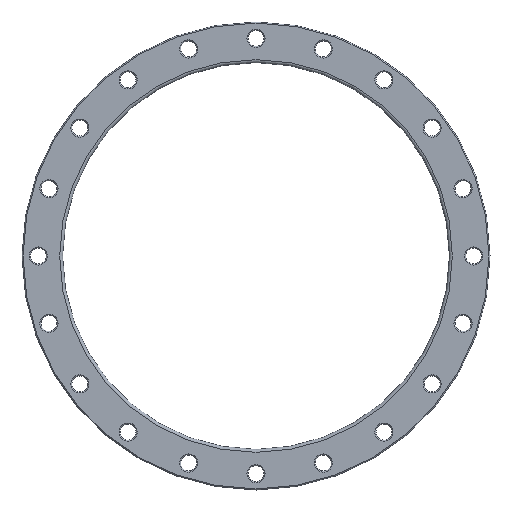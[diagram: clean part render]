
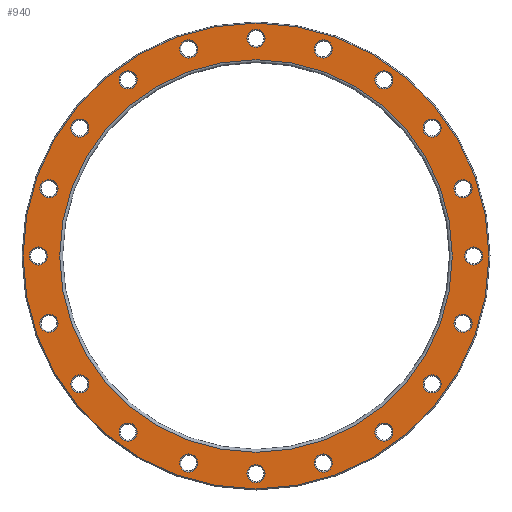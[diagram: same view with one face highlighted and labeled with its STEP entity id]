
A CAD part, front view. The second image highlights one B-rep face of the part: STEP entity #940.
In plain terms, the highlighted planar face has unit normal (0, -1, 0).
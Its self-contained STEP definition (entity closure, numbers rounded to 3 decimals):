
#23=PLANE('',#1104);
#206=ORIENTED_EDGE('',*,*,#325,.T.);
#207=ORIENTED_EDGE('',*,*,#326,.T.);
#208=ORIENTED_EDGE('',*,*,#244,.T.);
#209=ORIENTED_EDGE('',*,*,#248,.T.);
#210=ORIENTED_EDGE('',*,*,#252,.T.);
#211=ORIENTED_EDGE('',*,*,#256,.T.);
#212=ORIENTED_EDGE('',*,*,#260,.T.);
#213=ORIENTED_EDGE('',*,*,#264,.T.);
#214=ORIENTED_EDGE('',*,*,#268,.T.);
#215=ORIENTED_EDGE('',*,*,#272,.T.);
#216=ORIENTED_EDGE('',*,*,#276,.T.);
#217=ORIENTED_EDGE('',*,*,#280,.T.);
#218=ORIENTED_EDGE('',*,*,#284,.T.);
#219=ORIENTED_EDGE('',*,*,#288,.T.);
#220=ORIENTED_EDGE('',*,*,#292,.T.);
#221=ORIENTED_EDGE('',*,*,#296,.T.);
#222=ORIENTED_EDGE('',*,*,#300,.T.);
#223=ORIENTED_EDGE('',*,*,#304,.T.);
#224=ORIENTED_EDGE('',*,*,#308,.T.);
#225=ORIENTED_EDGE('',*,*,#312,.T.);
#226=ORIENTED_EDGE('',*,*,#316,.T.);
#227=ORIENTED_EDGE('',*,*,#327,.T.);
#244=EDGE_CURVE('',#332,#332,#420,.T.);
#248=EDGE_CURVE('',#336,#336,#424,.T.);
#252=EDGE_CURVE('',#340,#340,#428,.T.);
#256=EDGE_CURVE('',#344,#344,#432,.T.);
#260=EDGE_CURVE('',#348,#348,#436,.T.);
#264=EDGE_CURVE('',#352,#352,#440,.T.);
#268=EDGE_CURVE('',#356,#356,#444,.T.);
#272=EDGE_CURVE('',#360,#360,#448,.T.);
#276=EDGE_CURVE('',#364,#364,#452,.T.);
#280=EDGE_CURVE('',#368,#368,#456,.T.);
#284=EDGE_CURVE('',#372,#372,#460,.T.);
#288=EDGE_CURVE('',#376,#376,#464,.T.);
#292=EDGE_CURVE('',#380,#380,#468,.T.);
#296=EDGE_CURVE('',#384,#384,#472,.T.);
#300=EDGE_CURVE('',#388,#388,#476,.T.);
#304=EDGE_CURVE('',#392,#392,#480,.T.);
#308=EDGE_CURVE('',#396,#396,#484,.T.);
#312=EDGE_CURVE('',#400,#400,#488,.T.);
#316=EDGE_CURVE('',#404,#404,#492,.T.);
#325=EDGE_CURVE('',#413,#413,#501,.F.);
#326=EDGE_CURVE('',#414,#414,#502,.T.);
#327=EDGE_CURVE('',#415,#415,#503,.T.);
#332=VERTEX_POINT('',#1439);
#336=VERTEX_POINT('',#1450);
#340=VERTEX_POINT('',#1461);
#344=VERTEX_POINT('',#1472);
#348=VERTEX_POINT('',#1483);
#352=VERTEX_POINT('',#1494);
#356=VERTEX_POINT('',#1505);
#360=VERTEX_POINT('',#1516);
#364=VERTEX_POINT('',#1527);
#368=VERTEX_POINT('',#1538);
#372=VERTEX_POINT('',#1549);
#376=VERTEX_POINT('',#1560);
#380=VERTEX_POINT('',#1571);
#384=VERTEX_POINT('',#1582);
#388=VERTEX_POINT('',#1593);
#392=VERTEX_POINT('',#1604);
#396=VERTEX_POINT('',#1615);
#400=VERTEX_POINT('',#1626);
#404=VERTEX_POINT('',#1637);
#413=VERTEX_POINT('',#1660);
#414=VERTEX_POINT('',#1662);
#415=VERTEX_POINT('',#1664);
#420=CIRCLE('',#965,12.5);
#424=CIRCLE('',#972,12.5);
#428=CIRCLE('',#979,12.5);
#432=CIRCLE('',#986,12.5);
#436=CIRCLE('',#993,12.5);
#440=CIRCLE('',#1000,12.5);
#444=CIRCLE('',#1007,12.5);
#448=CIRCLE('',#1014,12.5);
#452=CIRCLE('',#1021,12.5);
#456=CIRCLE('',#1028,12.5);
#460=CIRCLE('',#1035,12.5);
#464=CIRCLE('',#1042,12.5);
#468=CIRCLE('',#1049,12.5);
#472=CIRCLE('',#1056,12.5);
#476=CIRCLE('',#1063,12.5);
#480=CIRCLE('',#1070,12.5);
#484=CIRCLE('',#1077,12.5);
#488=CIRCLE('',#1084,12.5);
#492=CIRCLE('',#1091,12.5);
#501=CIRCLE('',#1105,321.);
#502=CIRCLE('',#1106,270.5);
#503=CIRCLE('',#1107,12.5);
#646=EDGE_LOOP('',(#206));
#647=EDGE_LOOP('',(#207));
#648=EDGE_LOOP('',(#208));
#649=EDGE_LOOP('',(#209));
#650=EDGE_LOOP('',(#210));
#651=EDGE_LOOP('',(#211));
#652=EDGE_LOOP('',(#212));
#653=EDGE_LOOP('',(#213));
#654=EDGE_LOOP('',(#214));
#655=EDGE_LOOP('',(#215));
#656=EDGE_LOOP('',(#216));
#657=EDGE_LOOP('',(#217));
#658=EDGE_LOOP('',(#218));
#659=EDGE_LOOP('',(#219));
#660=EDGE_LOOP('',(#220));
#661=EDGE_LOOP('',(#221));
#662=EDGE_LOOP('',(#222));
#663=EDGE_LOOP('',(#223));
#664=EDGE_LOOP('',(#224));
#665=EDGE_LOOP('',(#225));
#666=EDGE_LOOP('',(#226));
#667=EDGE_LOOP('',(#227));
#822=FACE_BOUND('',#646,.T.);
#823=FACE_BOUND('',#647,.T.);
#824=FACE_BOUND('',#648,.T.);
#825=FACE_BOUND('',#649,.T.);
#826=FACE_BOUND('',#650,.T.);
#827=FACE_BOUND('',#651,.T.);
#828=FACE_BOUND('',#652,.T.);
#829=FACE_BOUND('',#653,.T.);
#830=FACE_BOUND('',#654,.T.);
#831=FACE_BOUND('',#655,.T.);
#832=FACE_BOUND('',#656,.T.);
#833=FACE_BOUND('',#657,.T.);
#834=FACE_BOUND('',#658,.T.);
#835=FACE_BOUND('',#659,.T.);
#836=FACE_BOUND('',#660,.T.);
#837=FACE_BOUND('',#661,.T.);
#838=FACE_BOUND('',#662,.T.);
#839=FACE_BOUND('',#663,.T.);
#840=FACE_BOUND('',#664,.T.);
#841=FACE_BOUND('',#665,.T.);
#842=FACE_BOUND('',#666,.T.);
#843=FACE_BOUND('',#667,.T.);
#940=ADVANCED_FACE('',(#822,#823,#824,#825,#826,#827,#828,#829,#830,#831,
#832,#833,#834,#835,#836,#837,#838,#839,#840,#841,#842,#843),#23,.F.);
#965=AXIS2_PLACEMENT_3D('',#1438,#1127,#1128);
#972=AXIS2_PLACEMENT_3D('',#1449,#1141,#1142);
#979=AXIS2_PLACEMENT_3D('',#1460,#1155,#1156);
#986=AXIS2_PLACEMENT_3D('',#1471,#1169,#1170);
#993=AXIS2_PLACEMENT_3D('',#1482,#1183,#1184);
#1000=AXIS2_PLACEMENT_3D('',#1493,#1197,#1198);
#1007=AXIS2_PLACEMENT_3D('',#1504,#1211,#1212);
#1014=AXIS2_PLACEMENT_3D('',#1515,#1225,#1226);
#1021=AXIS2_PLACEMENT_3D('',#1526,#1239,#1240);
#1028=AXIS2_PLACEMENT_3D('',#1537,#1253,#1254);
#1035=AXIS2_PLACEMENT_3D('',#1548,#1267,#1268);
#1042=AXIS2_PLACEMENT_3D('',#1559,#1281,#1282);
#1049=AXIS2_PLACEMENT_3D('',#1570,#1295,#1296);
#1056=AXIS2_PLACEMENT_3D('',#1581,#1309,#1310);
#1063=AXIS2_PLACEMENT_3D('',#1592,#1323,#1324);
#1070=AXIS2_PLACEMENT_3D('',#1603,#1337,#1338);
#1077=AXIS2_PLACEMENT_3D('',#1614,#1351,#1352);
#1084=AXIS2_PLACEMENT_3D('',#1625,#1365,#1366);
#1091=AXIS2_PLACEMENT_3D('',#1636,#1379,#1380);
#1104=AXIS2_PLACEMENT_3D('',#1658,#1405,#1406);
#1105=AXIS2_PLACEMENT_3D('',#1659,#1407,#1408);
#1106=AXIS2_PLACEMENT_3D('',#1661,#1409,#1410);
#1107=AXIS2_PLACEMENT_3D('',#1663,#1411,#1412);
#1127=DIRECTION('',(0.,1.,0.));
#1128=DIRECTION('',(0.951,0.,0.309));
#1141=DIRECTION('',(0.,1.,0.));
#1142=DIRECTION('',(0.809,0.,0.588));
#1155=DIRECTION('',(0.,1.,0.));
#1156=DIRECTION('',(0.588,0.,0.809));
#1169=DIRECTION('',(0.,1.,0.));
#1170=DIRECTION('',(0.309,0.,0.951));
#1183=DIRECTION('',(0.,1.,0.));
#1184=DIRECTION('',(0.,0.,1.));
#1197=DIRECTION('',(0.,1.,0.));
#1198=DIRECTION('',(-0.309,0.,0.951));
#1211=DIRECTION('',(0.,1.,0.));
#1212=DIRECTION('',(-0.588,0.,0.809));
#1225=DIRECTION('',(0.,1.,0.));
#1226=DIRECTION('',(-0.809,0.,0.588));
#1239=DIRECTION('',(0.,1.,0.));
#1240=DIRECTION('',(-0.951,0.,0.309));
#1253=DIRECTION('',(0.,1.,0.));
#1254=DIRECTION('',(-1.,0.,0.));
#1267=DIRECTION('',(0.,1.,0.));
#1268=DIRECTION('',(-0.951,0.,-0.309));
#1281=DIRECTION('',(0.,1.,0.));
#1282=DIRECTION('',(-0.809,0.,-0.588));
#1295=DIRECTION('',(0.,1.,0.));
#1296=DIRECTION('',(-0.588,0.,-0.809));
#1309=DIRECTION('',(0.,1.,0.));
#1310=DIRECTION('',(-0.309,0.,-0.951));
#1323=DIRECTION('',(0.,1.,0.));
#1324=DIRECTION('',(0.,0.,-1.));
#1337=DIRECTION('',(0.,1.,0.));
#1338=DIRECTION('',(0.309,0.,-0.951));
#1351=DIRECTION('',(0.,1.,0.));
#1352=DIRECTION('',(0.588,0.,-0.809));
#1365=DIRECTION('',(0.,1.,0.));
#1366=DIRECTION('',(0.809,0.,-0.588));
#1379=DIRECTION('',(0.,1.,0.));
#1380=DIRECTION('',(0.951,0.,-0.309));
#1405=DIRECTION('',(0.,1.,0.));
#1406=DIRECTION('',(0.,0.,1.));
#1407=DIRECTION('',(0.,1.,0.));
#1408=DIRECTION('',(0.,0.,1.));
#1409=DIRECTION('',(0.,1.,0.));
#1410=DIRECTION('',(0.,0.,1.));
#1411=DIRECTION('',(0.,1.,0.));
#1412=DIRECTION('',(1.,0.,0.));
#1438=CARTESIAN_POINT('',(-92.705,0.,285.317));
#1439=CARTESIAN_POINT('',(-80.817,0.,289.18));
#1449=CARTESIAN_POINT('',(-176.336,0.,242.705));
#1450=CARTESIAN_POINT('',(-166.223,0.,250.052));
#1460=CARTESIAN_POINT('',(-242.705,0.,176.336));
#1461=CARTESIAN_POINT('',(-235.358,0.,186.448));
#1471=CARTESIAN_POINT('',(-285.317,0.,92.705));
#1472=CARTESIAN_POINT('',(-281.454,0.,104.593));
#1482=CARTESIAN_POINT('',(-300.,0.,0.));
#1483=CARTESIAN_POINT('',(-300.,0.,12.5));
#1493=CARTESIAN_POINT('',(-285.317,0.,-92.705));
#1494=CARTESIAN_POINT('',(-289.18,0.,-80.817));
#1504=CARTESIAN_POINT('',(-242.705,0.,-176.336));
#1505=CARTESIAN_POINT('',(-250.052,0.,-166.223));
#1515=CARTESIAN_POINT('',(-176.336,0.,-242.705));
#1516=CARTESIAN_POINT('',(-186.448,0.,-235.358));
#1526=CARTESIAN_POINT('',(-92.705,0.,-285.317));
#1527=CARTESIAN_POINT('',(-104.593,0.,-281.454));
#1537=CARTESIAN_POINT('',(0.,0.,-300.));
#1538=CARTESIAN_POINT('',(-12.5,0.,-300.));
#1548=CARTESIAN_POINT('',(92.705,0.,-285.317));
#1549=CARTESIAN_POINT('',(80.817,0.,-289.18));
#1559=CARTESIAN_POINT('',(176.336,0.,-242.705));
#1560=CARTESIAN_POINT('',(166.223,0.,-250.052));
#1570=CARTESIAN_POINT('',(242.705,0.,-176.336));
#1571=CARTESIAN_POINT('',(235.358,0.,-186.448));
#1581=CARTESIAN_POINT('',(285.317,0.,-92.705));
#1582=CARTESIAN_POINT('',(281.454,0.,-104.593));
#1592=CARTESIAN_POINT('',(300.,0.,0.));
#1593=CARTESIAN_POINT('',(300.,0.,-12.5));
#1603=CARTESIAN_POINT('',(285.317,0.,92.705));
#1604=CARTESIAN_POINT('',(289.18,0.,80.817));
#1614=CARTESIAN_POINT('',(242.705,0.,176.336));
#1615=CARTESIAN_POINT('',(250.052,0.,166.223));
#1625=CARTESIAN_POINT('',(176.336,0.,242.705));
#1626=CARTESIAN_POINT('',(186.448,0.,235.358));
#1636=CARTESIAN_POINT('',(92.705,0.,285.317));
#1637=CARTESIAN_POINT('',(104.593,0.,281.454));
#1658=CARTESIAN_POINT('',(0.,0.,0.));
#1659=CARTESIAN_POINT('',(0.,0.,0.));
#1660=CARTESIAN_POINT('',(0.,0.,321.));
#1661=CARTESIAN_POINT('',(0.,0.,0.));
#1662=CARTESIAN_POINT('',(0.,0.,270.5));
#1663=CARTESIAN_POINT('',(0.,0.,300.));
#1664=CARTESIAN_POINT('',(12.5,0.,300.));
